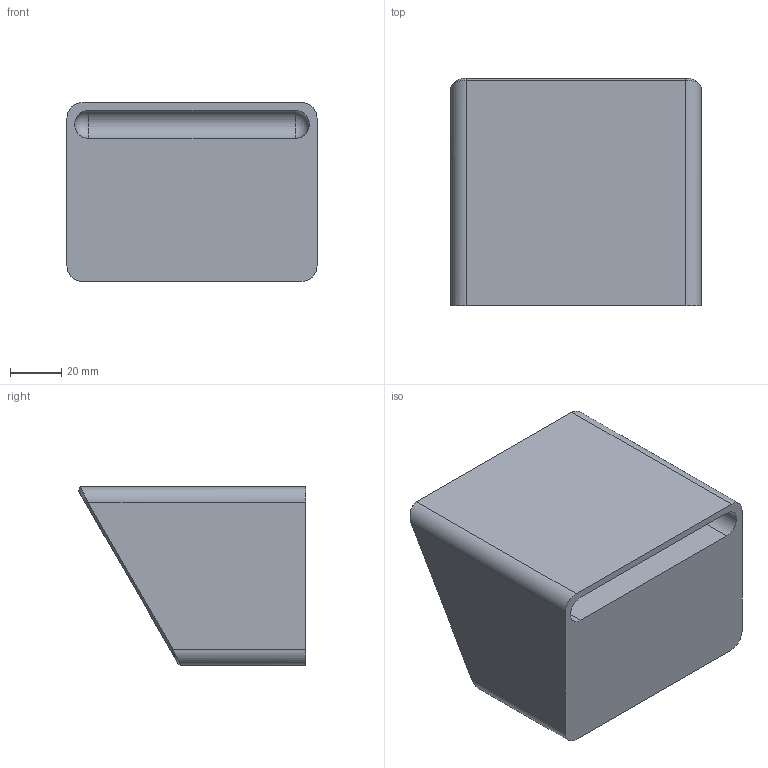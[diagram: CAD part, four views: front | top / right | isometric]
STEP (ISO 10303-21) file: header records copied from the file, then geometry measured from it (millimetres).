
FILE_DESCRIPTION((''),'2;1');
FILE_NAME('FIELD_NOTES_BIN_V3','2010-11-06T',('matthewlaberge'),('Rudolph Technologies'),'PRO/ENGINEER BY PARAMETRIC TECHNOLOGY CORPORATION, 2010280','PRO/ENGINEER BY PARAMETRIC TECHNOLOGY CORPORATION, 2010280','');
FILE_SCHEMA(('CONFIG_CONTROL_DESIGN'));
Length unit declared in the file: millimetre
Products named in the file (1): FIELD_NOTES_BIN_V3
Bounding box: 98 x 89.13 x 70 mm (x, y, z)
Volume: 120650.6 mm3; surface area: 73339.4 mm2
Topology: 1 solids, 1 shells, 99 faces, 250 edges, 161 vertices
Faces by surface type: plane 42, cylinder 37, bspline 16, sphere 2, torus 2
Entity records: 4058 total; most frequent: CARTESIAN_POINT 1763, ORIENTED_EDGE 494, DIRECTION 418, EDGE_CURVE 247, VERTEX_POINT 161, AXIS2_PLACEMENT_3D 142, VECTOR 134, LINE 134
